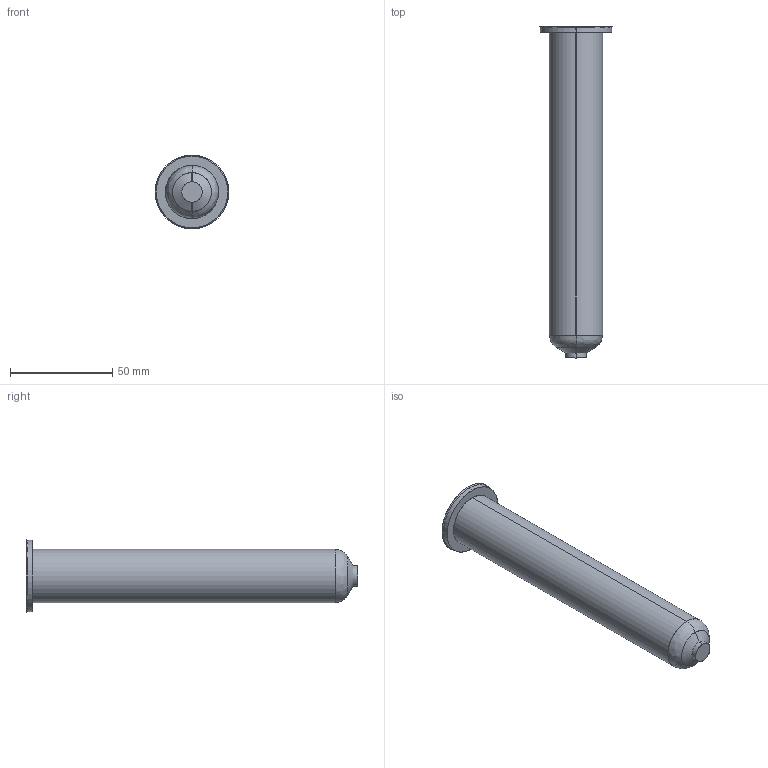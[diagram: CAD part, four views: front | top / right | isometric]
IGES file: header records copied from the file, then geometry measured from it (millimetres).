
Start section: SolidWorks IGES file using analytic representation for surfaces
Global section: file name: C:\Users\luca.EMPAD\Desktop\TEM\Sede UGBE3504-M-A C-159 L-189 P-0.IGS; native system: SolidWorks 2012; preprocessor: SolidWorks 2012; author: luca; date: 120330.142757; units: millimetre
Bounding box: 36 x 162.4 x 36 mm (x, y, z)
Surface area: 14848 mm2 (no closed solid volume)
Topology: 0 solids, 0 shells, 15 faces, 240 edges, 240 vertices
Faces by surface type: revolution 10, bspline 5
